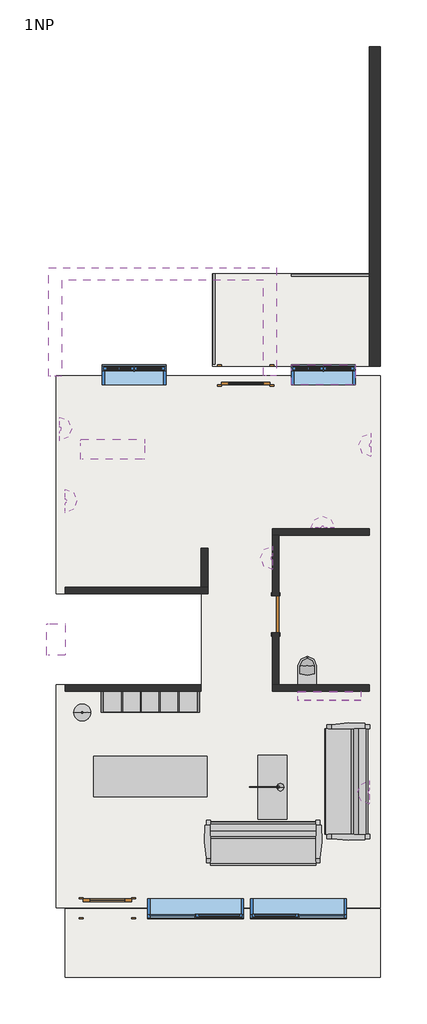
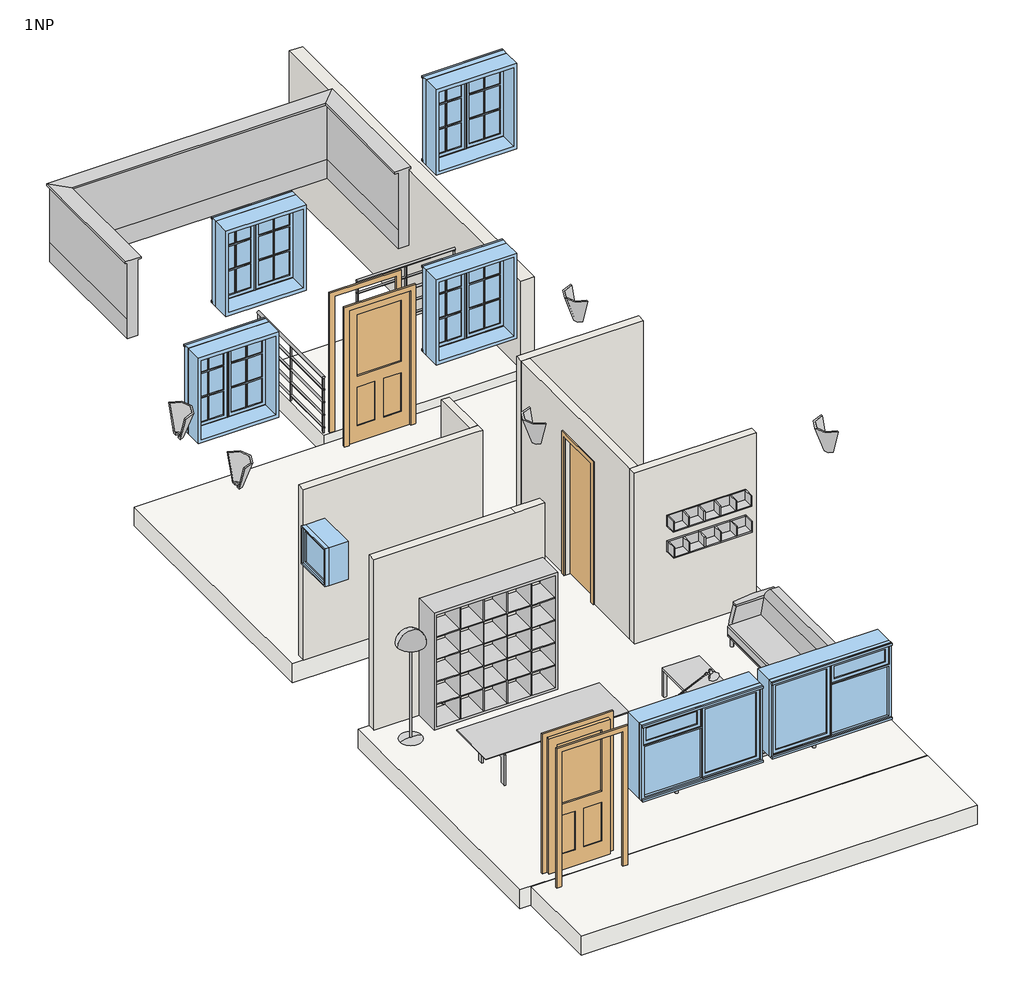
# One storey, incomplete: 8 light fixtures, 7 furniture elements, 7 walls, 7 windows, 3 doors, 3 slabs, 2 railings, 1 flow terminal, 1 proxy.
"""IFC4 building model written with IfcOpenShell, lengths in millimetres."""

from ifc_helpers import new_model, si_unit, frame, origin, origin_with_axes, place, context, project, spatial, polyline, outline, extrude, faceted_brep, transform, mapped, element, save
from components import m_single_decorative_1_0914_x_2134mm_a31491ec, standard_door_sd_700x2200_29d45fe6, flow_terminal_530_x_350mm_1a9316c8, furniture_920b33d8, furniture_7eedec44, furniture_45a1625c, furniture_0762_x_2134mm_3327233b, furniture_2134mm_67ee6dc0, furniture_2134mm_7fff81ef, lack_120x55cm_a48caeea, light_fixture_bd9db648, light_fixture_16639799, light_fixture_4844b612, light_fixture_da5f3668, light_fixture_c75c11d5, light_fixture_c6ae0c23, railing_900mm_pipe_2_fe6058d7, railing_900mm_pipe_2_0036318b, window_1200_x_1350mm_d246b42b, window_1800_x_1200mm_3cd8aec8, window_1800_x_1200mm_82a41733, window_600_x_600mm_7c1dbeb3

model = new_model("IFC4")

# Units and contexts
model_context = context("Model", 3, world=origin())
ifc_project = project(units=[si_unit("LENGTHUNIT", "METRE", prefix="MILLI")], contexts=[model_context])

# Site, building, storey
site = spatial("IfcSite", under=ifc_project)
building = spatial("IfcBuilding", under=site)
storey = spatial("IfcBuildingStorey", under=building, Name="1NP", Elevation=0.0)

# Proxy
placement = place(None, origin())
element("IfcBuildingElementProxy", 1, Name="Parapetto", ObjectType="Parapetto", at=placement, inside=storey, context=model_context, shape_type="Brep", body=[
    faceted_brep([(-4001.8266822, 4391.7328473, 2700.0), (-3841.8266822, 4391.7328473, 2700.0), (-3841.8266822, 4391.7328473, 3000.0), (-3841.8266822, 4391.7328473, 3900.0), (-3811.8266822, 4391.7328473, 3900.0), (-3811.8266822, 4391.7328473, 3930.0), (-4051.8266822, 4391.7328473, 3930.0), (-4051.8266822, 4391.7328473, 3900.0), (-4001.8266822, 4391.7328473, 3900.0), (-4001.8266822, 4391.7328473, 3000.0), (-4001.8266822, 6234.7328473, 2700.0), (-3841.8266822, 6394.7328473, 2700.0), (-3841.8266822, 4573.2328473, 2700.0), (-3841.8266822, 6394.7328473, 3000.0), (-3841.8266822, 6394.7328473, 3900.0), (-3811.8266822, 6424.7328473, 3900.0), (-3811.8266822, 6424.7328473, 3930.0), (-4051.8266822, 6184.7328473, 3930.0), (-4051.8266822, 6184.7328473, 3900.0), (-4001.8266822, 6234.7328473, 3900.0), (-4001.8266822, 6234.7328473, 3000.0), (-7898.3266822, 6234.7328473, 2700.0), (-8058.3266822, 6394.7328473, 2700.0), (-8058.3266822, 6394.7328473, 3000.0), (-8058.3266822, 6394.7328473, 3900.0), (-8088.3266822, 6424.7328473, 3900.0), (-8088.3266822, 6424.7328473, 3930.0), (-7848.3266822, 6184.7328473, 3930.0), (-7848.3266822, 6184.7328473, 3900.0), (-7898.3266822, 6234.7328473, 3900.0), (-7898.3266822, 6234.7328473, 3000.0), (-7898.3266822, 4384.7328473, 2700.0), (-7898.3266822, 4384.7328473, 3000.0), (-7898.3266822, 4384.7328473, 3900.0), (-7848.3266822, 4384.7328473, 3900.0), (-7848.3266822, 4384.7328473, 3930.0), (-8088.3266822, 4384.7328473, 3930.0), (-8088.3266822, 4384.7328473, 3900.0), (-8058.3266822, 4384.7328473, 3900.0), (-8058.3266822, 4384.7328473, 3000.0), (-8058.3266822, 4384.7328473, 2700.0)], [[[0, 1, 2, 3, 4, 5, 6, 7, 8, 9]], [[1, 0, 10, 11, 12]], [[2, 1, 12, 11, 13]], [[3, 2, 13, 14]], [[4, 3, 14, 15]], [[5, 4, 15, 16]], [[6, 5, 16, 17]], [[7, 6, 17, 18]], [[8, 7, 18, 19]], [[9, 8, 19, 20]], [[0, 9, 20, 10]], [[11, 10, 21, 22]], [[13, 11, 22, 23]], [[14, 13, 23, 24]], [[15, 14, 24, 25]], [[16, 15, 25, 26]], [[17, 16, 26, 27]], [[18, 17, 27, 28]], [[19, 18, 28, 29]], [[20, 19, 29, 30]], [[10, 20, 30, 21]], [[31, 32, 33, 34, 35, 36, 37, 38, 39, 40]], [[22, 21, 31, 40]], [[23, 22, 40, 39]], [[24, 23, 39, 38]], [[25, 24, 38, 37]], [[26, 25, 37, 36]], [[27, 26, 36, 35]], [[28, 27, 35, 34]], [[29, 28, 34, 33]], [[30, 29, 33, 32]], [[21, 30, 32, 31]]]),
])

# Doors
m_single_decorative_1_0914_x_2134mm_shape = m_single_decorative_1_0914_x_2134mm_a31491ec(model_context)
element("IfcDoor", 2, ObjectType="M_Single-Decorative 1 : 0914 x 2134mm", at=placement, inside=storey, context=model_context, shape_type="MappedRepresentation", body=[
    mapped(m_single_decorative_1_0914_x_2134mm_shape, transform((-6986.8266822, -5601.7671527, 0.0), x_axis=(-1.0, 0.0, 0.0), y_axis=(0.0, -1.0, 0.0), z_axis=(0.0, 0.0, 1.0))),
])
element("IfcDoor", 3, ObjectType="M_Single-Decorative 1 : 0914 x 2134mm", at=placement, inside=storey, context=model_context, shape_type="MappedRepresentation", body=[
    mapped(m_single_decorative_1_0914_x_2134mm_shape, transform((-4386.8266822, 4398.2328473, 0.0), x_axis=(1.0, 0.0, 0.0), y_axis=(0.0, 1.0, 0.0), z_axis=(0.0, 0.0, 1.0))),
])
standard_door_sd_700x2200_shape = standard_door_sd_700x2200_29d45fe6(model_context)
element("IfcDoor", 4, ObjectType="Standard Door : SD 700x2200", at=placement, inside=storey, context=model_context, shape_type="MappedRepresentation", body=[
    mapped(standard_door_sd_700x2200_shape, transform((-3824.3266822, -84.3406402, 0.0), x_axis=(0.0, -1.0, 0.0), y_axis=(1.0, 0.0, 0.0), z_axis=(0.0, 0.0, 1.0))),
])

# Flow terminal
flow_terminal_530_x_350mm_shape = flow_terminal_530_x_350mm_1a9316c8(model_context)
element("IfcFlowTerminal", 5, ObjectType="M_WC Seat with no Support_6 : 530 x 350mm", at=placement, inside=storey, context=model_context, shape_type="MappedRepresentation", body=[
    mapped(flow_terminal_530_x_350mm_shape, transform((-3231.7769186, -1401.8406402, 0.0), x_axis=(-1.0, 0.0, 0.0), y_axis=(0.0, -1.0, 0.0), z_axis=(0.0, 0.0, 1.0))),
])

# Furniture
furniture_shape = furniture_920b33d8(model_context)
element("IfcFurniture", 6, ObjectType="Benno mensola IKEA : Benno Mensola", at=placement, inside=storey, context=model_context, shape_type="MappedRepresentation", body=[
    mapped(furniture_shape, transform((-2836.6069087, -1464.3406402, -400.0), x_axis=(-1.0, 0.0, 0.0), y_axis=(0.0, -1.0, 0.0), z_axis=(0.0, 0.0, 1.0))),
])
furniture_2_shape = furniture_7eedec44(model_context)
element("IfcFurniture", 7, ObjectType="Benno mensola IKEA : Benno Mensola", at=placement, inside=storey, context=model_context, shape_type="MappedRepresentation", body=[
    mapped(furniture_2_shape, transform((-2836.6069087, -1464.3406402, 0.0), x_axis=(-1.0, 0.0, 0.0), y_axis=(0.0, -1.0, 0.0), z_axis=(0.0, 0.0, 1.0))),
])
furniture_3_shape = furniture_45a1625c(model_context)
element("IfcFurniture", 8, ObjectType="Expedit libreria IKEA : Expedit Libreria 185x185x39", at=placement, inside=storey, context=model_context, shape_type="MappedRepresentation", body=[
    mapped(furniture_3_shape, transform((-5936.2729468, -1653.1589206, 0.0), x_axis=(-1.0000000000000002, 0.0, 0.0), y_axis=(0.0, -1.0000000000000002, 0.0), z_axis=(0.0, 0.0, 1.0))),
])
furniture_0762_x_2134mm_shape = furniture_0762_x_2134mm_3327233b(model_context)
element("IfcFurniture", 9, ObjectType="M_Tavolo-Pranzo : 0762 x 2134mm", at=placement, inside=storey, context=model_context, shape_type="MappedRepresentation", body=[
    mapped(furniture_0762_x_2134mm_shape, transform((-6201.5924488, -3222.051718, 0.0), x_axis=(1.0, 0.0, 0.0), y_axis=(0.0, 1.0, 0.0), z_axis=(0.0, 0.0, 1.0))),
])
furniture_2134mm_shape = furniture_2134mm_67ee6dc0(model_context)
element("IfcFurniture", 10, ObjectType="M_Poltrona-Pensi : 2134mm", at=placement, inside=storey, context=model_context, shape_type="MappedRepresentation", body=[
    mapped(furniture_2134mm_shape, transform((-4340.4329322, -4649.7308041, 0.0), x_axis=(1.0, 0.0, 0.0), y_axis=(0.0, 1.0, 0.0), z_axis=(0.0, 0.0, 1.0))),
])
furniture_2134mm_2_shape = furniture_2134mm_7fff81ef(model_context)
element("IfcFurniture", 11, ObjectType="M_Poltrona-Pensi : 2134mm", at=placement, inside=storey, context=model_context, shape_type="MappedRepresentation", body=[
    mapped(furniture_2134mm_2_shape, transform((-2760.4365182, -3505.4468902, 0.0), x_axis=(0.0, 1.0, 0.0), y_axis=(-1.0, 0.0, 0.0), z_axis=(0.0, 0.0, 1.0))),
])
lack_120x55cm_shape = lack_120x55cm_a48caeea(model_context)
element("IfcFurniture", 12, ObjectType="Lack Tavolino IKEA : Lack 120x55cm", at=placement, inside=storey, context=model_context, shape_type="MappedRepresentation", body=[
    mapped(lack_120x55cm_shape, transform((-3537.7285634, -2966.216477, 0.0), x_axis=(1.0, 0.0, 0.0), y_axis=(0.0, 1.0, 0.0), z_axis=(0.0, 0.0, 1.0))),
])

# Light fixtures
light_fixture_shape = light_fixture_bd9db648(model_context)
element("IfcLightFixture", 13, ObjectType="M_Lamapada da pavimento - Semisferica : 100 watt Incandescente", at=placement, inside=storey, context=model_context, shape_type="MappedRepresentation", body=[
    mapped(light_fixture_shape, transform((-7461.8266822, -1926.8406402, 0.0), x_axis=(1.0, 0.0, 0.0), y_axis=(0.0, 1.0, 0.0), z_axis=(0.0, 0.0, 1.0))),
])
light_fixture_2_shape = light_fixture_16639799(model_context)
element("IfcLightFixture", 14, ObjectType="M_Applique : 100 watt Incandescente", at=placement, inside=storey, context=model_context, shape_type="MappedRepresentation", body=[
    mapped(light_fixture_2_shape, transform((-2940.6210153, 1460.6593598, 0.0), x_axis=(1.0, 0.0, 0.0), y_axis=(0.0, 1.0, 0.0), z_axis=(0.0, 0.0, 1.0))),
])
element("IfcLightFixture", 15, ObjectType="M_Applique : 100 watt Incandescente", at=placement, inside=storey, context=model_context, shape_type="MappedRepresentation", body=[
    mapped(light_fixture_2_shape, transform((-7958.3266822, 3398.5271804, 0.0), x_axis=(0.0, -1.0, 0.0), y_axis=(1.0, 0.0, 0.0), z_axis=(0.0, 0.0, 1.0))),
])
element("IfcLightFixture", 16, ObjectType="M_Applique : 100 watt Incandescente", at=placement, inside=storey, context=model_context, shape_type="MappedRepresentation", body=[
    mapped(light_fixture_2_shape, transform((-1961.8266822, 3098.5271804, 0.0), x_axis=(0.0, 1.0, 0.0), y_axis=(-1.0, 0.0, 0.0), z_axis=(0.0, 0.0, 1.0))),
])
light_fixture_3_shape = light_fixture_4844b612(model_context)
element("IfcLightFixture", 17, ObjectType="M_Lampada da tavolo Luxo : 100 watt Incandescente", at=placement, inside=storey, context=model_context, shape_type="MappedRepresentation", body=[
    mapped(light_fixture_3_shape, transform((-3990.4266822, -3326.8406402, 0.0), x_axis=(1.0, 0.0, 0.0), y_axis=(0.0, 1.0, 0.0), z_axis=(0.0, 0.0, 1.0))),
])
light_fixture_4_shape = light_fixture_da5f3668(model_context)
element("IfcLightFixture", 18, ObjectType="M_Applique : 100 watt Incandescente", at=placement, inside=storey, context=model_context, shape_type="MappedRepresentation", body=[
    mapped(light_fixture_4_shape, transform((-1961.8266822, -3426.8406402, 1900.0), x_axis=(0.0, 1.0, 0.0), y_axis=(-1.0, 0.0, 0.0), z_axis=(0.0, 0.0, 1.0))),
])
light_fixture_5_shape = light_fixture_c75c11d5(model_context)
element("IfcLightFixture", 19, ObjectType="M_Applique : 100 watt Incandescente", at=placement, inside=storey, context=model_context, shape_type="MappedRepresentation", body=[
    mapped(light_fixture_5_shape, transform((-3824.3266822, 976.9536929, 0.0), x_axis=(0.0, 1.0, 0.0), y_axis=(-1.0, 0.0, 0.0), z_axis=(0.0, 0.0, 1.0))),
])
light_fixture_6_shape = light_fixture_c6ae0c23(model_context)
element("IfcLightFixture", 20, ObjectType="M_Applique : 100 watt Incandescente", at=placement, inside=storey, context=model_context, shape_type="MappedRepresentation", body=[
    mapped(light_fixture_6_shape, transform((-7958.3266822, 2044.3650267, 0.0), x_axis=(0.0, -1.0, 0.0), y_axis=(1.0, 0.0, 0.0), z_axis=(0.0, 0.0, 1.0))),
])

# Railings
railing_900mm_pipe_2_shape = railing_900mm_pipe_2_fe6058d7(model_context)
element("IfcRailing", 21, ObjectType="900mm Pipe 2", at=placement, inside=storey, context=model_context, shape_type="MappedRepresentation", body=[
    mapped(railing_900mm_pipe_2_shape, transform((0.0, 0.0, 0.0), x_axis=(1.0, 0.0, 0.0), y_axis=(0.0, 1.0, 0.0), z_axis=(0.0, 0.0, 1.0))),
])
railing_900mm_pipe_2_2_shape = railing_900mm_pipe_2_0036318b(model_context)
element("IfcRailing", 22, ObjectType="900mm Pipe 2", at=placement, inside=storey, context=model_context, shape_type="MappedRepresentation", body=[
    mapped(railing_900mm_pipe_2_2_shape, transform((0.0, 0.0, 0.0), x_axis=(1.0, 0.0, 0.0), y_axis=(0.0, 1.0, 0.0), z_axis=(0.0, 0.0, 1.0))),
])

# Slabs
element("IfcSlab", 23, ObjectType="Domestic Slab", at=placement, inside=storey, context=model_context, shape_type="Brep", body=[
    faceted_brep([(-7948.3266822, 298.1593598, -300.0), (-7948.3266822, 4391.7328473, -300.0), (-1861.8266822, 4391.7328473, -300.0), (-1861.8266822, -5595.2671527, -300.0), (-7948.3266822, -5595.2671527, -300.0), (-7948.3266822, -1401.8406402, -300.0), (-5223.3266822, -1401.8406402, -300.0), (-5223.3266822, 298.1593598, -300.0), (-7948.3266822, 298.1593598, 0.0), (-5223.3266822, 298.1593598, 0.0), (-5223.3266822, -1401.8406402, 0.0), (-7948.3266822, -1401.8406402, 0.0), (-7948.3266822, -5595.2671527, 0.0), (-7443.8266822, -5595.2671527, 0.0), (-6529.8266822, -5595.2671527, 0.0), (-1861.8266822, -5595.2671527, 0.0), (-1861.8266822, 4391.7328473, 0.0), (-3929.8266822, 4391.7328473, 0.0), (-4843.8266822, 4391.7328473, 0.0), (-7948.3266822, 4391.7328473, 0.0)], [[[0, 1, 2, 3, 4, 5, 6, 7]], [[8, 9, 10, 11, 12, 13, 14, 15, 16, 17, 18, 19]], [[1, 0, 8, 19]], [[2, 1, 19, 18, 17, 16]], [[3, 2, 16, 15]], [[4, 3, 15, 14, 13, 12]], [[5, 4, 12, 11]], [[6, 5, 11, 10]], [[7, 6, 10, 9]], [[0, 7, 9, 8]]]),
])
element("IfcSlab", 24, ObjectType="Domestic Slab", at=placement, inside=storey, context=model_context, shape_type="Brep", body=[
    faceted_brep([(-1858.3266822, -6901.7671527, -300.0), (-1861.8266822, -6901.7671527, -300.0), (-2061.8266822, -6901.7671527, -300.0), (-7783.3266822, -6901.7671527, -300.0), (-7783.3266822, -5610.7671527, -300.0), (-1858.3266822, -5610.7671527, -300.0), (-1858.3266822, -6901.7671527, 0.0), (-1858.3266822, -5610.7671527, 0.0), (-7783.3266822, -5610.7671527, 0.0), (-7783.3266822, -6901.7671527, 0.0), (-2061.8266822, -6901.7671527, 0.0), (-1861.8266822, -6901.7671527, 0.0)], [[[0, 1, 2, 3, 4, 5]], [[6, 7, 8, 9, 10, 11]], [[3, 2, 1, 0, 6, 11, 10, 9]], [[4, 3, 9, 8]], [[5, 4, 8, 7]], [[0, 5, 7, 6]]]),
])
element("IfcSlab", 25, ObjectType="Generic 300mm", at=placement, inside=storey, context=model_context, shape_type="SweptSolid", body=[
    extrude(outline(polyline([(-2061.8266822, 6313.2328473), (-2061.8266822, 4573.2328473), (-5011.8266822, 4573.2328473), (-5011.8266822, 6313.2328473), (-2061.8266822, 6313.2328473)])), frame((0.0, 0.0, -300.0), z_axis=(0.0, 0.0, 1.0), x_axis=(1.0, 0.0, 0.0)), (0.0, 0.0, 1.0), 300.0),
])

# Walls
element("IfcWall", 26, ObjectType="Generic - 200mm", at=placement, inside=storey, context=model_context, shape_type="SweptSolid", body=[
    extrude(outline(polyline([(4573.2328473, -800.0), (4573.2328473, 1400.0), (10576.7328473, 1400.0), (10576.7328473, 0.0), (10573.2328473, 0.0), (10573.2328473, -800.0), (4573.2328473, -800.0)])), frame((-2061.8266822, 0.0, 0.0), z_axis=(1.0, 0.0, 0.0), x_axis=(0.0, 1.0, 0.0)), (0.0, 0.0, 1.0), 200.0),
])
element("IfcWall", 27, ObjectType="Interior wall", at=placement, inside=storey, context=model_context, shape_type="SweptSolid", body=[
    extrude(outline(polyline([(0.0, -7783.3266822), (0.0, -5226.8266822), (2700.0, -5226.8266822), (2700.0, -5661.8266822), (2700.0, -7783.3266822), (0.0, -7783.3266822)])), frame((0.0, -1526.8406402, 0.0), z_axis=(0.0, 1.0, 0.0), x_axis=(0.0, 0.0, 1.0)), (0.0, 0.0, 1.0), 125.0),
])
element("IfcWall", 28, ObjectType="Interior wall", at=placement, inside=storey, context=model_context, shape_type="Brep", body=[
    faceted_brep([(-5101.8266822, 423.1593598, 0.0), (-5226.8266822, 423.1593598, 0.0), (-7783.3266822, 423.1593598, 0.0), (-7783.3266822, 423.1593598, 2700.0), (-5226.8266822, 423.1593598, 2700.0), (-5101.8266822, 423.1593598, 2700.0), (-5101.8266822, 298.1593598, 0.0), (-5101.8266822, 298.1593598, 2700.0), (-5226.8266822, 298.1593598, 2700.0), (-7783.3266822, 298.1593598, 2700.0), (-7783.3266822, 298.1593598, 0.0)], [[[0, 1, 2, 3, 4, 5]], [[6, 7, 8, 9, 10]], [[2, 1, 0, 6, 10]], [[0, 5, 7, 6]], [[3, 2, 10, 9]], [[5, 4, 3, 9, 8, 7]]]),
])
element("IfcWall", 29, ObjectType="Interior wall", at=placement, inside=storey, context=model_context, shape_type="SweptSolid", body=[
    extrude(outline(polyline([(-5101.8266822, 1160.6593598), (-5101.8266822, 423.1593598), (-5226.8266822, 423.1593598), (-5226.8266822, 1160.6593598), (-5101.8266822, 1160.6593598)])), origin_with_axes(), (0.0, 0.0, 1.0), 2700.0),
])
element("IfcWall", 30, ObjectType="Interior wall", at=placement, inside=storey, context=model_context, shape_type="Brep", body=[
    faceted_brep([(-2061.8266822, -1401.8406402, 0.0), (-3761.8266822, -1401.8406402, 0.0), (-3886.8266822, -1401.8406402, 0.0), (-3886.8266822, -1401.8406402, 2700.0), (-3761.8266822, -1401.8406402, 2700.0), (-2061.8266822, -1401.8406402, 2700.0), (-2061.8266822, -1526.8406402, 0.0), (-2061.8266822, -1526.8406402, 2700.0), (-3886.8266822, -1526.8406402, 2700.0), (-3886.8266822, -1526.8406402, 0.0)], [[[0, 1, 2, 3, 4, 5]], [[6, 7, 8, 9]], [[2, 1, 0, 6, 9]], [[3, 2, 9, 8]], [[0, 5, 7, 6]], [[5, 4, 3, 8, 7]]]),
])
element("IfcWall", 31, ObjectType="Interior wall", at=placement, inside=storey, context=model_context, shape_type="Brep", body=[
    faceted_brep([(-3886.8266822, 1398.1593598, 0.0), (-3761.8266822, 1398.1593598, 0.0), (-2061.8266822, 1398.1593598, 0.0), (-2061.8266822, 1398.1593598, 2700.0), (-3761.8266822, 1398.1593598, 2700.0), (-3886.8266822, 1398.1593598, 2700.0), (-3886.8266822, 1523.1593598, 0.0), (-3886.8266822, 1523.1593598, 2700.0), (-2061.8266822, 1523.1593598, 2700.0), (-2061.8266822, 1523.1593598, 0.0)], [[[0, 1, 2, 3, 4, 5]], [[6, 7, 8, 9]], [[2, 1, 0, 6, 9]], [[0, 5, 7, 6]], [[3, 2, 9, 8]], [[5, 4, 3, 8, 7]]]),
])
element("IfcWall", 32, ObjectType="Interior wall", at=placement, inside=storey, context=model_context, shape_type="Brep", body=[
    faceted_brep([(-3761.8266822, -1401.8406402, 0.0), (-3761.8266822, -434.3406402, 0.0), (-3761.8266822, -434.3406402, 2200.0), (-3761.8266822, 265.6593598, 2200.0), (-3761.8266822, 265.6593598, 0.0), (-3761.8266822, 1398.1593598, 0.0), (-3761.8266822, 1398.1593598, 2700.0), (-3761.8266822, -1401.8406402, 2700.0), (-3886.8266822, -434.3406402, 2200.0), (-3886.8266822, -434.3406402, 0.0), (-3886.8266822, -1401.8406402, 0.0), (-3886.8266822, -1401.8406402, 2700.0), (-3886.8266822, -601.8406402, 2700.0), (-3886.8266822, 1398.1593598, 2700.0), (-3886.8266822, 1398.1593598, 0.0), (-3886.8266822, 265.6593598, 0.0), (-3886.8266822, 265.6593598, 2200.0)], [[[0, 1, 2, 3, 4, 5, 6, 7]], [[8, 9, 10, 11, 12, 13, 14, 15, 16]], [[10, 9, 1, 0]], [[15, 14, 5, 4]], [[0, 7, 11, 10]], [[6, 5, 14, 13]], [[7, 6, 13, 12, 11]], [[2, 1, 9, 8]], [[3, 2, 8, 16]], [[4, 3, 16, 15]]]),
])

# Windows
window_1200_x_1350mm_shape = window_1200_x_1350mm_d246b42b(model_context)
element("IfcWindow", 33, ObjectType="DvoukridlePricle : 1200 x 1350mm", at=placement, inside=storey, context=model_context, shape_type="MappedRepresentation", body=[
    mapped(window_1200_x_1350mm_shape, transform((-2929.3266822, 4443.2601532, -115.0), x_axis=(1.0, 0.0, 0.0), y_axis=(0.0, 1.0, 0.0), z_axis=(0.0, 0.0, 1.0))),
])
element("IfcWindow", 34, ObjectType="DvoukridlePricle : 1200 x 1350mm", at=placement, inside=storey, context=model_context, shape_type="MappedRepresentation", body=[
    mapped(window_1200_x_1350mm_shape, transform((-6486.8266822, 4443.2601532, -115.0), x_axis=(1.0, 0.0, 0.0), y_axis=(0.0, 1.0, 0.0), z_axis=(0.0, 0.0, 1.0))),
])
element("IfcWindow", 35, ObjectType="DvoukridlePricle : 1200 x 1350mm", at=placement, inside=storey, context=model_context, shape_type="MappedRepresentation", body=[
    mapped(window_1200_x_1350mm_shape, transform((-2929.3266822, 4443.2601532, 2885.0), x_axis=(1.0, 0.0, 0.0), y_axis=(0.0, 1.0, 0.0), z_axis=(0.0, 0.0, 1.0))),
])
element("IfcWindow", 36, ObjectType="DvoukridlePricle : 1200 x 1350mm", at=placement, inside=storey, context=model_context, shape_type="MappedRepresentation", body=[
    mapped(window_1200_x_1350mm_shape, transform((-6886.8266822, 3043.2601532, 2885.0), x_axis=(1.0, 0.0, 0.0), y_axis=(0.0, 1.0, 0.0), z_axis=(0.0, 0.0, 1.0))),
])
window_1800_x_1200mm_shape = window_1800_x_1200mm_3cd8aec8(model_context)
element("IfcWindow", 37, ObjectType="DvoukridleVentilace : 1800 x 1200mm", at=placement, inside=storey, context=model_context, shape_type="MappedRepresentation", body=[
    mapped(window_1800_x_1200mm_shape, transform((-5329.8266822, -5601.7671527, 0.0), x_axis=(1.0, 0.0, 0.0), y_axis=(0.0, 1.0, 0.0), z_axis=(0.0, 0.0, 1.0))),
])
window_1800_x_1200mm_2_shape = window_1800_x_1200mm_82a41733(model_context)
element("IfcWindow", 38, ObjectType="DvoukridleVentilace : 1800 x 1200mm", at=placement, inside=storey, context=model_context, shape_type="MappedRepresentation", body=[
    mapped(window_1800_x_1200mm_2_shape, transform((-3395.8266822, -5601.7671527, 0.0), x_axis=(-1.0, 0.0, 0.0), y_axis=(0.0, -1.0, 0.0), z_axis=(0.0, 0.0, 1.0))),
])
window_600_x_600mm_shape = window_600_x_600mm_7c1dbeb3(model_context)
element("IfcWindow", 39, ObjectType="Pevne : 600 x 600mm", at=placement, inside=storey, context=model_context, shape_type="MappedRepresentation", body=[
    mapped(window_600_x_600mm_shape, transform((-7945.3266822, -556.8406402, 1083.8025508), x_axis=(0.0, 1.0, 0.0), y_axis=(-1.0, 0.0, 0.0), z_axis=(0.0, 0.0, 1.0))),
])

save(model, "model.ifc")
